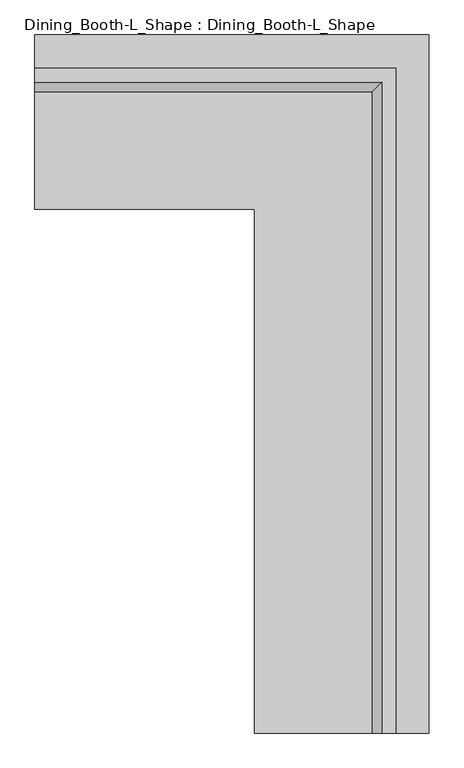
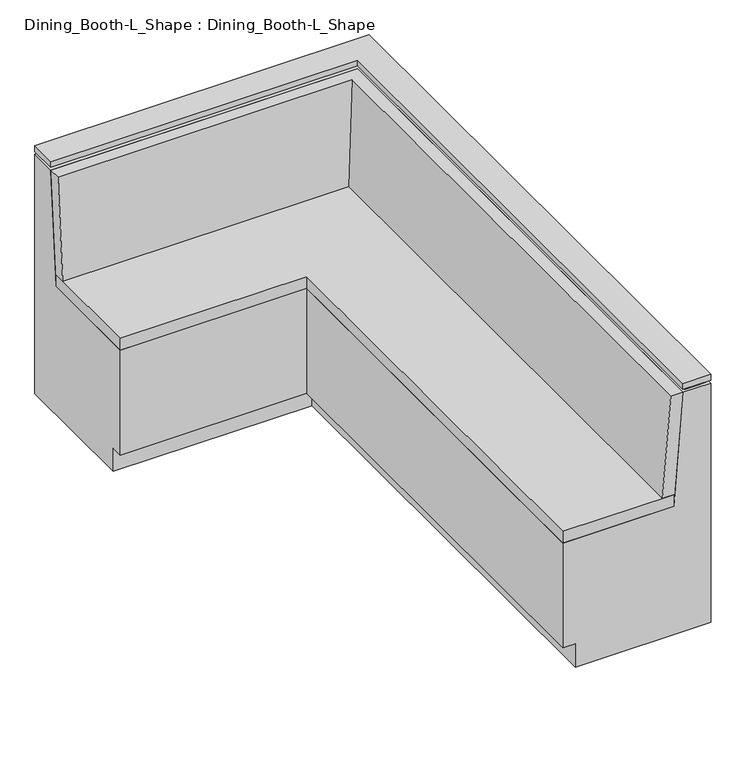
"""IFC4 building model written with IfcOpenShell, lengths in millimetres: furniture geometry, Dining_Booth-L_Shape : Dining_Booth-L_Shape."""

from ifc_helpers import new_model, si_unit, frame, origin, place, context, project, spatial, polyline, outline, extrude, faceted_brep, source, transform, mapped, element, save


def dining_booth_l_shape_dining_booth_l_shape_abab4fc1(model_context):
    return source(origin(), model_context, "Body", "SolidModel", [
        faceted_brep([(-1377.95, -148.3894737, 609.6), (-1377.95, -199.347538, 609.6), (-1377.95, -165.2580643, 1041.4), (-1377.95, -114.3, 1041.4), (-148.3894737, -148.3894737, 609.6), (-148.3894737, -2438.4, 609.6), (-199.347538, -2438.4, 609.6), (-199.347538, -199.347538, 609.6), (-165.2580643, -165.2580643, 1041.4), (-165.2580643, -2438.4, 1041.4), (-114.3, -2438.4, 1041.4), (-114.3, -114.3, 1041.4)], [[[0, 1, 2, 3]], [[1, 0, 4, 5, 6, 7]], [[2, 1, 7, 8]], [[3, 2, 8, 9, 10, 11]], [[0, 3, 11, 4]], [[5, 10, 9, 6]], [[8, 7, 6, 9]], [[4, 11, 10, 5]]]),
        extrude(outline(polyline([(-152.4, -152.4), (-152.4, -2438.4), (-609.6, -2438.4), (-609.6, -609.6), (-1377.95, -609.6), (-1377.95, -152.4), (-152.4, -152.4)])), frame((0.0, 0.0, 558.8), z_axis=(0.0, 0.0, 1.0), x_axis=(1.0, 0.0, 0.0)), (0.0, 0.0, 1.0), 50.8),
        extrude(outline(polyline([(0.0, -2438.4), (-114.3, -2438.4), (-114.3, -114.3), (-1377.95, -114.3), (-1377.95, 0.0), (0.0, 0.0), (0.0, -2438.4)])), frame((0.0, 0.0, 1054.1), z_axis=(0.0, 0.0, 1.0), x_axis=(1.0, 0.0, 0.0)), (0.0, 0.0, 1.0), 25.4),
        extrude(outline(polyline([(-12.7, -2425.7), (-101.6, -2425.7), (-101.6, -88.9), (-1365.25, -88.9), (-1365.25, 0.0), (-12.7, 0.0), (-12.7, -2425.7)])), frame((0.0, 0.0, 1041.4), z_axis=(0.0, 0.0, 1.0), x_axis=(1.0, 0.0, 0.0)), (0.0, 0.0, 1.0), 12.7),
        faceted_brep([(0.0, -2438.4, 1041.4), (-114.3, -2438.4, 1041.4), (-152.4, -2438.4, 558.8), (-609.6, -2438.4, 558.8), (-609.6, -2438.4, 101.6), (-558.8, -2438.4, 101.6), (-558.8, -2438.4, 0.0), (0.0, -2438.4, 0.0), (0.0, 0.0, 1041.4), (-1377.95, 0.0, 1041.4), (-1377.95, -114.3, 1041.4), (-114.3, -114.3, 1041.4), (-152.4, -152.4, 558.8), (-1377.95, -152.4, 558.8), (-1377.95, -609.6, 558.8), (-609.6, -609.6, 558.8), (-609.6, -609.6, 101.6), (-1377.95, -609.6, 101.6), (-1377.95, -558.8, 101.6), (-558.8, -558.8, 101.6), (-558.8, -558.8, 0.0), (-1377.95, -558.8, 0.0), (-1377.95, 0.0, 0.0), (0.0, 0.0, 0.0)], [[[0, 1, 2, 3, 4, 5, 6, 7]], [[1, 0, 8, 9, 10, 11]], [[2, 1, 11, 12]], [[3, 2, 12, 13, 14, 15]], [[4, 3, 15, 16]], [[5, 4, 16, 17, 18, 19]], [[6, 5, 19, 20]], [[7, 6, 20, 21, 22, 23]], [[0, 7, 23, 8]], [[12, 11, 10, 13]], [[16, 15, 14, 17]], [[20, 19, 18, 21]], [[8, 23, 22, 9]], [[9, 22, 21, 18, 17, 14, 13, 10]]]),
    ])


if __name__ == "__main__":
    model = new_model("IFC4")
    model_context = context("Model", 3, world=origin())
    ifc_project = project(units=[si_unit("LENGTHUNIT", "METRE", prefix="MILLI")], contexts=[model_context])
    site = spatial("IfcSite", under=ifc_project)
    building = spatial("IfcBuilding", under=site)
    placement = place(None, origin())
    dining_booth_l_shape_dining_booth_l_shape_shape = dining_booth_l_shape_dining_booth_l_shape_abab4fc1(model_context)
    element("IfcFurniture", 1, ObjectType="Dining_Booth-L_Shape : Dining_Booth-L_Shape", at=placement, inside=building, context=model_context, shape_type="MappedRepresentation", body=[
        mapped(dining_booth_l_shape_dining_booth_l_shape_shape, transform((0.0, 0.0, 0.0), x_axis=(1.0, 0.0, 0.0), y_axis=(0.0, 1.0, 0.0), z_axis=(0.0, 0.0, 1.0))),
    ])
    save(model, "model.ifc")
